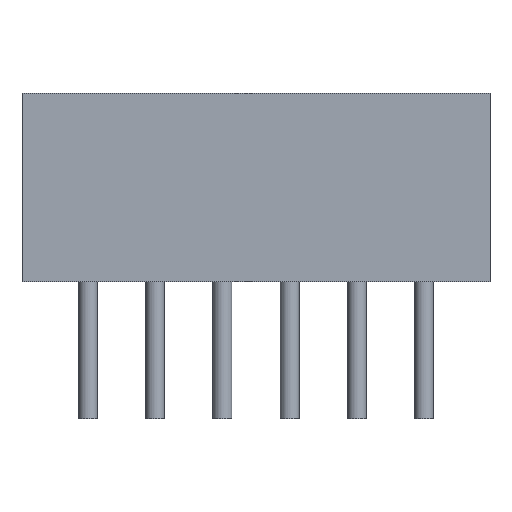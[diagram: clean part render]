
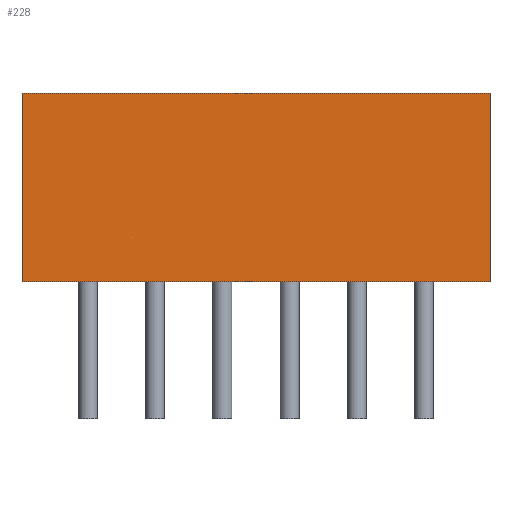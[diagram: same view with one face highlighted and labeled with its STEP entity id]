
A CAD part, front view. The second image highlights one B-rep face of the part: STEP entity #228.
In plain terms, the highlighted planar face has unit normal (0, -1, 0).
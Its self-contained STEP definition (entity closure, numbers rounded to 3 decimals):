
#59 = PLANE('',#60);
#60 = AXIS2_PLACEMENT_3D('',#61,#62,#63);
#61 = CARTESIAN_POINT('',(-2.45,-2.35,0.));
#62 = DIRECTION('',(-1.,0.,0.));
#63 = DIRECTION('',(0.,1.,0.));
#87 = PLANE('',#88);
#88 = AXIS2_PLACEMENT_3D('',#89,#90,#91);
#89 = CARTESIAN_POINT('',(6.25,0.525,7.));
#90 = DIRECTION('',(-0.,-0.,-1.));
#91 = DIRECTION('',(-1.,0.,0.));
#115 = PLANE('',#116);
#116 = AXIS2_PLACEMENT_3D('',#117,#118,#119);
#117 = CARTESIAN_POINT('',(14.95,3.4,0.));
#118 = DIRECTION('',(1.,0.,-0.));
#119 = DIRECTION('',(0.,-1.,0.));
#141 = PLANE('',#142);
#142 = AXIS2_PLACEMENT_3D('',#143,#144,#145);
#143 = CARTESIAN_POINT('',(6.25,0.525,0.));
#144 = DIRECTION('',(-0.,-0.,-1.));
#145 = DIRECTION('',(-1.,0.,0.));
#158 = VERTEX_POINT('',#159);
#159 = CARTESIAN_POINT('',(14.95,-2.35,7.));
#180 = EDGE_CURVE('',#181,#158,#183,.T.);
#181 = VERTEX_POINT('',#182);
#182 = CARTESIAN_POINT('',(14.95,-2.35,0.));
#183 = SURFACE_CURVE('',#184,(#188,#195),.PCURVE_S1.);
#184 = LINE('',#185,#186);
#185 = CARTESIAN_POINT('',(14.95,-2.35,0.));
#186 = VECTOR('',#187,1.);
#187 = DIRECTION('',(0.,0.,1.));
#188 = PCURVE('',#115,#189);
#189 = DEFINITIONAL_REPRESENTATION('',(#190),#194);
#190 = LINE('',#191,#192);
#191 = CARTESIAN_POINT('',(5.75,0.));
#192 = VECTOR('',#193,1.);
#193 = DIRECTION('',(0.,-1.));
#194 = ( GEOMETRIC_REPRESENTATION_CONTEXT(2) 
PARAMETRIC_REPRESENTATION_CONTEXT() REPRESENTATION_CONTEXT('2D SPACE',''
  ) );
#195 = PCURVE('',#196,#201);
#196 = PLANE('',#197);
#197 = AXIS2_PLACEMENT_3D('',#198,#199,#200);
#198 = CARTESIAN_POINT('',(14.95,-2.35,0.));
#199 = DIRECTION('',(0.,-1.,0.));
#200 = DIRECTION('',(-1.,0.,0.));
#201 = DEFINITIONAL_REPRESENTATION('',(#202),#206);
#202 = LINE('',#203,#204);
#203 = CARTESIAN_POINT('',(0.,-0.));
#204 = VECTOR('',#205,1.);
#205 = DIRECTION('',(0.,-1.));
#206 = ( GEOMETRIC_REPRESENTATION_CONTEXT(2) 
PARAMETRIC_REPRESENTATION_CONTEXT() REPRESENTATION_CONTEXT('2D SPACE',''
  ) );
#228 = ADVANCED_FACE('',(#229),#196,.T.);
#229 = FACE_BOUND('',#230,.T.);
#230 = EDGE_LOOP('',(#231,#232,#255,#278));
#231 = ORIENTED_EDGE('',*,*,#180,.T.);
#232 = ORIENTED_EDGE('',*,*,#233,.T.);
#233 = EDGE_CURVE('',#158,#234,#236,.T.);
#234 = VERTEX_POINT('',#235);
#235 = CARTESIAN_POINT('',(-2.45,-2.35,7.));
#236 = SURFACE_CURVE('',#237,(#241,#248),.PCURVE_S1.);
#237 = LINE('',#238,#239);
#238 = CARTESIAN_POINT('',(14.95,-2.35,7.));
#239 = VECTOR('',#240,1.);
#240 = DIRECTION('',(-1.,0.,0.));
#241 = PCURVE('',#196,#242);
#242 = DEFINITIONAL_REPRESENTATION('',(#243),#247);
#243 = LINE('',#244,#245);
#244 = CARTESIAN_POINT('',(0.,-7.));
#245 = VECTOR('',#246,1.);
#246 = DIRECTION('',(1.,0.));
#247 = ( GEOMETRIC_REPRESENTATION_CONTEXT(2) 
PARAMETRIC_REPRESENTATION_CONTEXT() REPRESENTATION_CONTEXT('2D SPACE',''
  ) );
#248 = PCURVE('',#87,#249);
#249 = DEFINITIONAL_REPRESENTATION('',(#250),#254);
#250 = LINE('',#251,#252);
#251 = CARTESIAN_POINT('',(-8.7,-2.875));
#252 = VECTOR('',#253,1.);
#253 = DIRECTION('',(1.,0.));
#254 = ( GEOMETRIC_REPRESENTATION_CONTEXT(2) 
PARAMETRIC_REPRESENTATION_CONTEXT() REPRESENTATION_CONTEXT('2D SPACE',''
  ) );
#255 = ORIENTED_EDGE('',*,*,#256,.F.);
#256 = EDGE_CURVE('',#257,#234,#259,.T.);
#257 = VERTEX_POINT('',#258);
#258 = CARTESIAN_POINT('',(-2.45,-2.35,0.));
#259 = SURFACE_CURVE('',#260,(#264,#271),.PCURVE_S1.);
#260 = LINE('',#261,#262);
#261 = CARTESIAN_POINT('',(-2.45,-2.35,0.));
#262 = VECTOR('',#263,1.);
#263 = DIRECTION('',(0.,0.,1.));
#264 = PCURVE('',#196,#265);
#265 = DEFINITIONAL_REPRESENTATION('',(#266),#270);
#266 = LINE('',#267,#268);
#267 = CARTESIAN_POINT('',(17.4,0.));
#268 = VECTOR('',#269,1.);
#269 = DIRECTION('',(0.,-1.));
#270 = ( GEOMETRIC_REPRESENTATION_CONTEXT(2) 
PARAMETRIC_REPRESENTATION_CONTEXT() REPRESENTATION_CONTEXT('2D SPACE',''
  ) );
#271 = PCURVE('',#59,#272);
#272 = DEFINITIONAL_REPRESENTATION('',(#273),#277);
#273 = LINE('',#274,#275);
#274 = CARTESIAN_POINT('',(0.,0.));
#275 = VECTOR('',#276,1.);
#276 = DIRECTION('',(0.,-1.));
#277 = ( GEOMETRIC_REPRESENTATION_CONTEXT(2) 
PARAMETRIC_REPRESENTATION_CONTEXT() REPRESENTATION_CONTEXT('2D SPACE',''
  ) );
#278 = ORIENTED_EDGE('',*,*,#279,.F.);
#279 = EDGE_CURVE('',#181,#257,#280,.T.);
#280 = SURFACE_CURVE('',#281,(#285,#292),.PCURVE_S1.);
#281 = LINE('',#282,#283);
#282 = CARTESIAN_POINT('',(14.95,-2.35,0.));
#283 = VECTOR('',#284,1.);
#284 = DIRECTION('',(-1.,0.,0.));
#285 = PCURVE('',#196,#286);
#286 = DEFINITIONAL_REPRESENTATION('',(#287),#291);
#287 = LINE('',#288,#289);
#288 = CARTESIAN_POINT('',(0.,-0.));
#289 = VECTOR('',#290,1.);
#290 = DIRECTION('',(1.,0.));
#291 = ( GEOMETRIC_REPRESENTATION_CONTEXT(2) 
PARAMETRIC_REPRESENTATION_CONTEXT() REPRESENTATION_CONTEXT('2D SPACE',''
  ) );
#292 = PCURVE('',#141,#293);
#293 = DEFINITIONAL_REPRESENTATION('',(#294),#298);
#294 = LINE('',#295,#296);
#295 = CARTESIAN_POINT('',(-8.7,-2.875));
#296 = VECTOR('',#297,1.);
#297 = DIRECTION('',(1.,0.));
#298 = ( GEOMETRIC_REPRESENTATION_CONTEXT(2) 
PARAMETRIC_REPRESENTATION_CONTEXT() REPRESENTATION_CONTEXT('2D SPACE',''
  ) );
